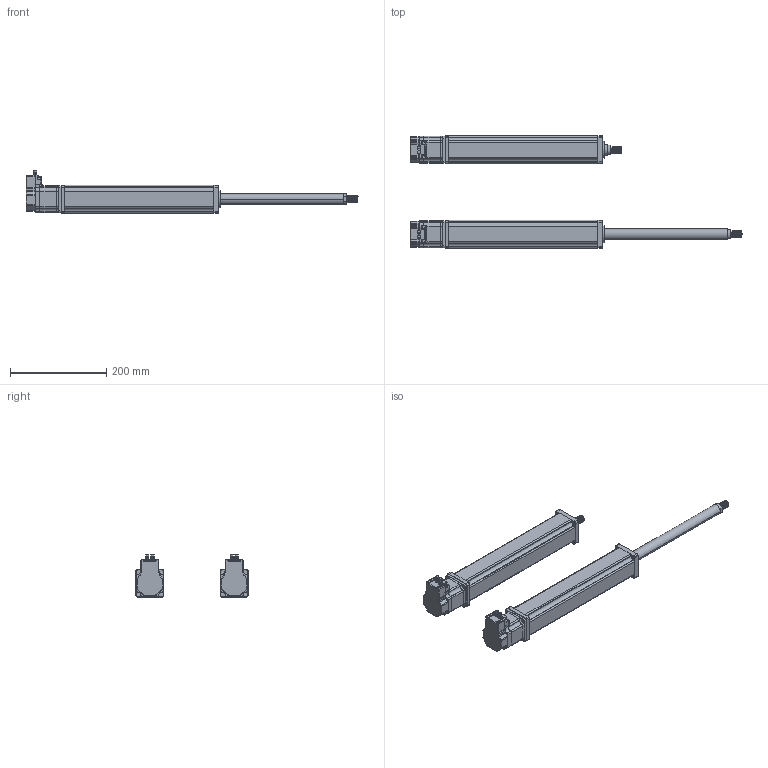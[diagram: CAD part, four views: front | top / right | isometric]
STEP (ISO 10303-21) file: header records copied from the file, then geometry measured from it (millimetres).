
FILE_DESCRIPTION(('STEP AP214'),'1');
FILE_NAME('\Tsurumi-main\3d_dad2\Servo_Motor\tmp0.STEP',' ',(' '),(' '),'XStep 1.0',' ',' ');
FILE_SCHEMA(('automotive_design'));
Length unit declared in the file: millimetre
Bounding box: 690.49 x 233.23 x 88.1 mm (x, y, z)
Volume: 2517409 mm3; surface area: 316748.3 mm2
Topology: 48 solids, 48 shells, 1828 faces, 5014 edges, 3286 vertices
Faces by surface type: plane 1250, cylinder 470, bspline 60, torus 36, sphere 8, cone 4
Entity records: 112259 total; most frequent: CARTESIAN_POINT 49708, ORIENTED_EDGE 9996, DIRECTION 9460, EDGE_CURVE 4998, LINE 3900, VECTOR 3900, VERTEX_POINT 3286, AXIS2_PLACEMENT_3D 2780
